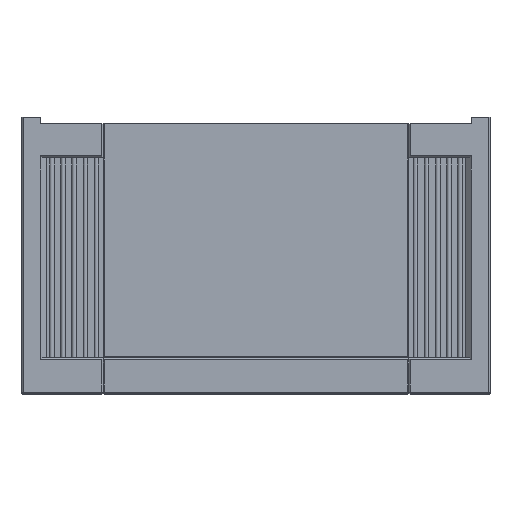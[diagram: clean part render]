
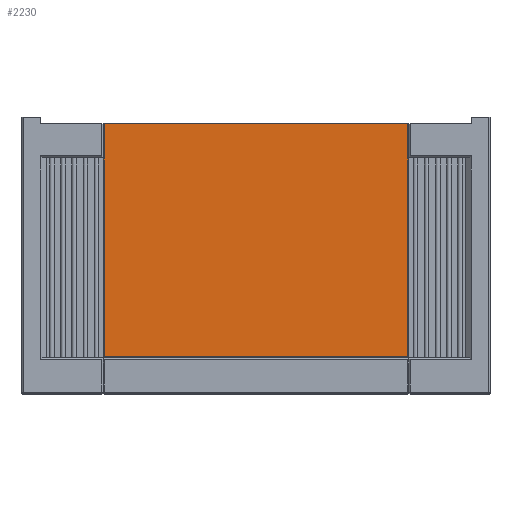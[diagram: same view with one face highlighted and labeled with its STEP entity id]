
A CAD part, top view. The second image highlights one B-rep face of the part: STEP entity #2230.
In plain terms, the highlighted planar face has unit normal (0, 0, 1).
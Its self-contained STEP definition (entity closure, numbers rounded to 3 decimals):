
#2230 = ADVANCED_FACE( '', ( #5715 ), #5716, .T. );
#5715 = FACE_OUTER_BOUND( '', #10819, .T. );
#5716 = PLANE( '', #10820 );
#10819 = EDGE_LOOP( '', ( #17415, #17416, #17417, #17418 ) );
#10820 = AXIS2_PLACEMENT_3D( '', #17419, #17420, #17421 );
#17415 = ORIENTED_EDGE( '', *, *, #33357, .T. );
#17416 = ORIENTED_EDGE( '', *, *, #33358, .T. );
#17417 = ORIENTED_EDGE( '', *, *, #32278, .F. );
#17418 = ORIENTED_EDGE( '', *, *, #33359, .T. );
#17419 = CARTESIAN_POINT( '', ( -343., -15., 1618. ) );
#17420 = DIRECTION( '', ( 0., 0., 1. ) );
#17421 = DIRECTION( '', ( 1., 0., 0. ) );
#32278 = EDGE_CURVE( '', #38170, #38171, #38172, .T. );
#33357 = EDGE_CURVE( '', #40014, #40015, #40016, .T. );
#33358 = EDGE_CURVE( '', #40015, #38171, #40017, .T. );
#33359 = EDGE_CURVE( '', #38170, #40014, #40018, .T. );
#38170 = VERTEX_POINT( '', #46538 );
#38171 = VERTEX_POINT( '', #46539 );
#38172 = LINE( '', #46540, #46541 );
#40014 = VERTEX_POINT( '', #50122 );
#40015 = VERTEX_POINT( '', #50123 );
#40016 = LINE( '', #50124, #50125 );
#40017 = LINE( '', #50126, #50127 );
#40018 = LINE( '', #50128, #50129 );
#46538 = CARTESIAN_POINT( '', ( -340., -15., 1618. ) );
#46539 = CARTESIAN_POINT( '', ( 340., -15., 1618. ) );
#46540 = CARTESIAN_POINT( '', ( -343., -15., 1618. ) );
#46541 = VECTOR( '', #64189, 1000. );
#50122 = CARTESIAN_POINT( '', ( -340., -537.183, 1618. ) );
#50123 = CARTESIAN_POINT( '', ( 340., -537.183, 1618. ) );
#50124 = CARTESIAN_POINT( '', ( -343., -537.183, 1618. ) );
#50125 = VECTOR( '', #64960, 1000. );
#50126 = CARTESIAN_POINT( '', ( 340., -15., 1618. ) );
#50127 = VECTOR( '', #64961, 1000. );
#50128 = CARTESIAN_POINT( '', ( -340., -15., 1618. ) );
#50129 = VECTOR( '', #64962, 1000. );
#64189 = DIRECTION( '', ( 1., 0., 0. ) );
#64960 = DIRECTION( '', ( 1., 0., 0. ) );
#64961 = DIRECTION( '', ( 0., 1., 0. ) );
#64962 = DIRECTION( '', ( 0., -1., 0. ) );
